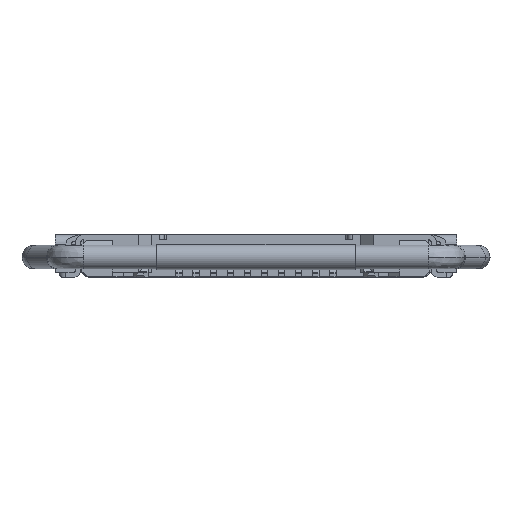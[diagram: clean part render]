
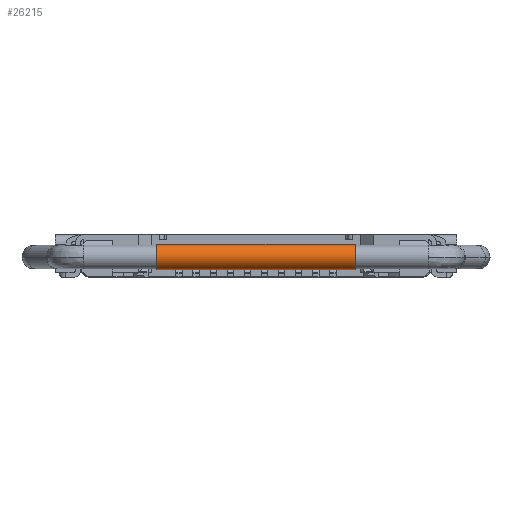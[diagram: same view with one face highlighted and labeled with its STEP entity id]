
A CAD part, front view. The second image highlights one B-rep face of the part: STEP entity #26215.
In plain terms, the highlighted cylindrical face has radius 0.295 mm (diameter 0.59 mm), a partial arc.
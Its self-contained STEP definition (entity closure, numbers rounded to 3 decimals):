
#5559 = DIRECTION ( 'NONE',  ( -1., 0., 0. ) ) ;
#5562 = CARTESIAN_POINT ( 'NONE',  ( 6.325, -5.225, -0.23 ) ) ;
#5599 = CARTESIAN_POINT ( 'NONE',  ( 6.325, -5.225, -0.82 ) ) ;
#5604 = DIRECTION ( 'NONE',  ( -1., 0., 0. ) ) ;
#6088 = ORIENTED_EDGE ( 'NONE', *, *, #26141, .T. ) ;
#6105 = ORIENTED_EDGE ( 'NONE', *, *, #14352, .T. ) ;
#6106 = ORIENTED_EDGE ( 'NONE', *, *, #14341, .F. ) ;
#6107 = ORIENTED_EDGE ( 'NONE', *, *, #26139, .T. ) ;
#8950 = CARTESIAN_POINT ( 'NONE',  ( -2.325, -5.225, -0.23 ) ) ;
#8952 = CARTESIAN_POINT ( 'NONE',  ( -2.325, -5.225, -0.82 ) ) ;
#8955 = CARTESIAN_POINT ( 'NONE',  ( 2.325, -5.225, -0.82 ) ) ;
#8965 = CARTESIAN_POINT ( 'NONE',  ( 2.325, -5.225, -0.23 ) ) ;
#10387 = VERTEX_POINT ( 'NONE', #8965 ) ;
#10395 = VERTEX_POINT ( 'NONE', #8955 ) ;
#10398 = VERTEX_POINT ( 'NONE', #8952 ) ;
#10399 = VERTEX_POINT ( 'NONE', #8950 ) ;
#12314 = AXIS2_PLACEMENT_3D ( 'NONE', #18077, #18078, #18079 ) ;
#12315 = AXIS2_PLACEMENT_3D ( 'NONE', #18080, #18081, #18082 ) ;
#12372 = AXIS2_PLACEMENT_3D ( 'NONE', #18327, #18326, #18323 ) ;
#14341 = EDGE_CURVE ( 'NONE', #10395, #10398, #28927, .T. ) ;
#14352 = EDGE_CURVE ( 'NONE', #10387, #10399, #28938, .T. ) ;
#15212 = EDGE_LOOP ( 'NONE', ( #6106, #6107, #6105, #6088 ) ) ;
#16908 = CIRCLE ( 'NONE', #12314, 0.295 ) ;
#16911 = CIRCLE ( 'NONE', #12315, 0.295 ) ;
#17015 = FACE_OUTER_BOUND ( 'NONE', #15212, .T. ) ;
#17019 = CYLINDRICAL_SURFACE ( 'NONE', #12372, 0.295 ) ;
#18077 = CARTESIAN_POINT ( 'NONE',  ( 2.325, -5.225, -0.525 ) ) ;
#18078 = DIRECTION ( 'NONE',  ( -1., 0., 0. ) ) ;
#18079 = DIRECTION ( 'NONE',  ( 0., 0., 1. ) ) ;
#18080 = CARTESIAN_POINT ( 'NONE',  ( -2.325, -5.225, -0.525 ) ) ;
#18081 = DIRECTION ( 'NONE',  ( 1., 0., 0. ) ) ;
#18082 = DIRECTION ( 'NONE',  ( 0., 0., 1. ) ) ;
#18323 = DIRECTION ( 'NONE',  ( 0., 0., 1. ) ) ;
#18326 = DIRECTION ( 'NONE',  ( -1., 0., 0. ) ) ;
#18327 = CARTESIAN_POINT ( 'NONE',  ( 6.325, -5.225, -0.525 ) ) ;
#26139 = EDGE_CURVE ( 'NONE', #10395, #10387, #16908, .T. ) ;
#26141 = EDGE_CURVE ( 'NONE', #10399, #10398, #16911, .T. ) ;
#26215 = ADVANCED_FACE ( 'NONE', ( #17015 ), #17019, .T. ) ;
#28927 = LINE ( 'NONE', #5599, #28931 ) ;
#28931 = VECTOR ( 'NONE', #5604, 1000. ) ;
#28938 = LINE ( 'NONE', #5562, #28941 ) ;
#28941 = VECTOR ( 'NONE', #5559, 1000. ) ;
